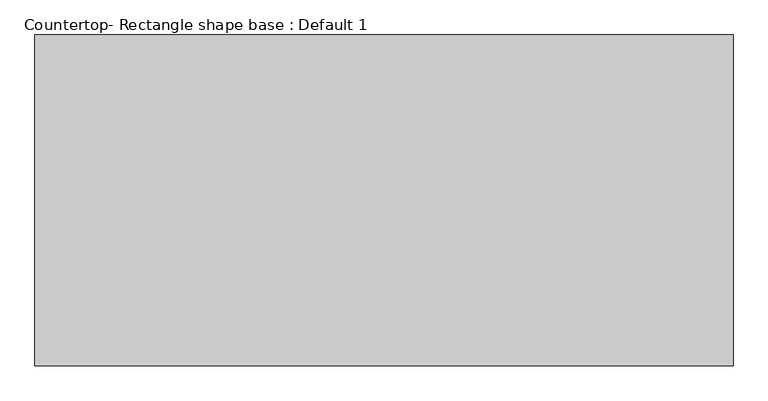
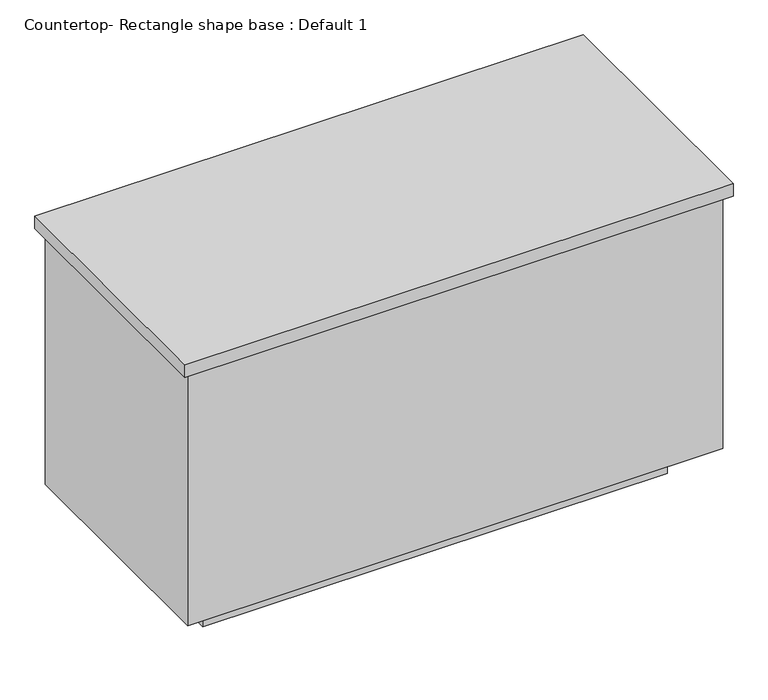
"""IFC4 building model written with IfcOpenShell, lengths in millimetres: proxy geometry, Countertop- Rectangle shape base : Default 1."""

from ifc_helpers import new_model, si_unit, frame, origin, origin_with_axes, place, context, project, spatial, polyline, outline, extrude, source, transform, mapped, element, save


def countertop_rectangle_shape_base_default_1_742723e2(model_context):
    return source(origin(), model_context, "Body", "SweptSolid", [
        extrude(outline(polyline([(-28.575, 6.35), (-28.575, 755.65), (1552.575, 755.65), (1552.575, 6.35), (-28.575, 6.35)])), frame((0.0, 0.0, 876.3), z_axis=(0.0, 0.0, 1.0), x_axis=(1.0, 0.0, 0.0)), (0.0, 0.0, 1.0), 38.1),
        extrude(outline(polyline([(1533.525, 736.6), (1533.525, 25.4), (-9.525, 25.4), (-9.525, 736.6), (1533.525, 736.6)])), frame((0.0, 0.0, 101.6), z_axis=(0.0, 0.0, 1.0), x_axis=(1.0, 0.0, 0.0)), (0.0, 0.0, 1.0), 774.7),
        extrude(outline(polyline([(1431.925, 635.0), (1431.925, 127.0), (92.075, 127.0), (92.075, 635.0), (1431.925, 635.0)])), origin_with_axes(), (0.0, 0.0, 1.0), 101.6),
    ])


if __name__ == "__main__":
    model = new_model("IFC4")
    model_context = context("Model", 3, world=origin())
    ifc_project = project(units=[si_unit("LENGTHUNIT", "METRE", prefix="MILLI")], contexts=[model_context])
    site = spatial("IfcSite", under=ifc_project)
    building = spatial("IfcBuilding", under=site)
    placement = place(None, origin())
    countertop_rectangle_shape_base_default_1_shape = countertop_rectangle_shape_base_default_1_742723e2(model_context)
    element("IfcBuildingElementProxy", 1, Name="Countertop- Rectangle shape base : Default 1", ObjectType="Countertop- Rectangle shape base : Default 1", at=placement, inside=building, context=model_context, shape_type="MappedRepresentation", body=[
        mapped(countertop_rectangle_shape_base_default_1_shape, transform((0.0, 0.0, 0.0), x_axis=(1.0, 0.0, 0.0), y_axis=(0.0, 1.0, 0.0), z_axis=(0.0, 0.0, 1.0))),
    ])
    save(model, "model.ifc")
